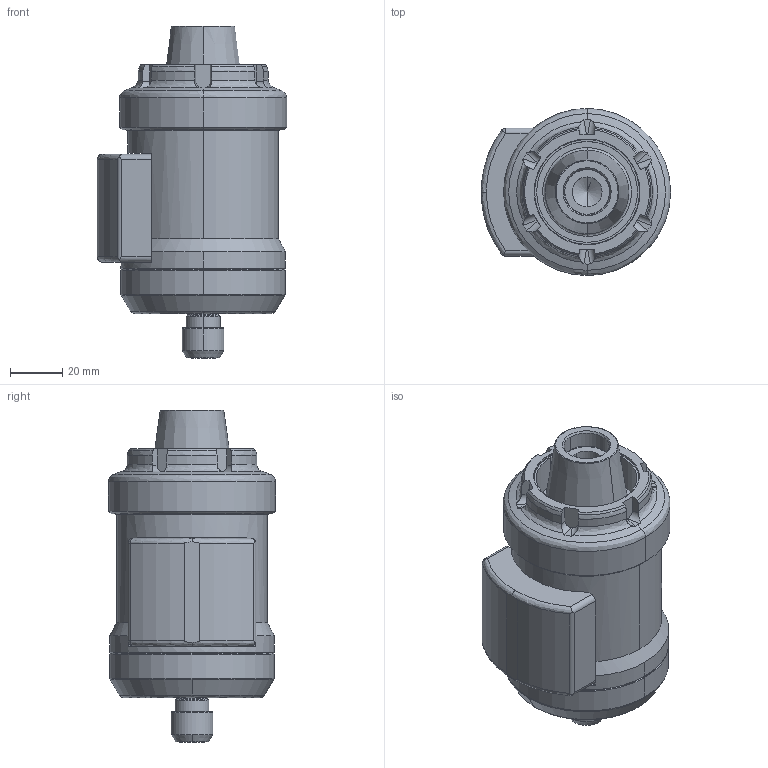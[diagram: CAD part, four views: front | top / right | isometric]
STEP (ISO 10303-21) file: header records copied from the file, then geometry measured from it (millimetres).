
FILE_DESCRIPTION (( 'STEP AP214' ), '1' );
FILE_NAME ('ER32-V2 (Detail).STEP', '2017-11-16T06:09:12', ( 'Christophe' ), ( '' ), 'SwSTEP 2.0', 'SolidWorks 2016', '' );
FILE_SCHEMA (( 'AUTOMOTIVE_DESIGN' ));
Length unit declared in the file: millimetre
Products named in the file (1): ER32-V2 (Detail)
Bounding box: 72.5 x 64 x 127.2 mm (x, y, z)
Volume: 284120.7 mm3; surface area: 34624.2 mm2
Topology: 1 solids, 1 shells, 177 faces, 462 edges, 294 vertices
Faces by surface type: cylinder 56, plane 46, cone 41, bspline 34
Entity records: 7073 total; most frequent: CARTESIAN_POINT 2650, ORIENTED_EDGE 916, DIRECTION 847, EDGE_CURVE 458, AXIS2_PLACEMENT_3D 341, VERTEX_POINT 294, CIRCLE 194, EDGE_LOOP 188
